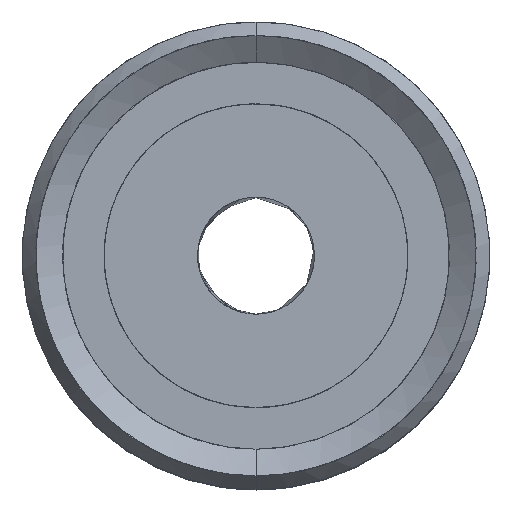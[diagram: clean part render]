
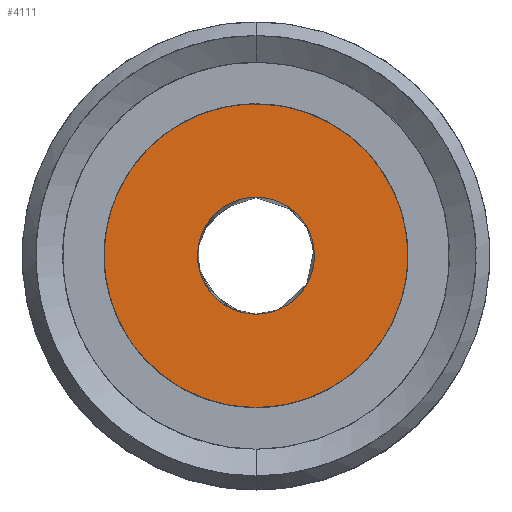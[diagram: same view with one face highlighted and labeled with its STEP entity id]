
A CAD part, top view. The second image highlights one B-rep face of the part: STEP entity #4111.
In plain terms, the highlighted planar face has unit normal (0, 0, 1).
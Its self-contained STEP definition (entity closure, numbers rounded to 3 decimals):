
#22=FACE_BOUND('',#4583,.T.);
#4111=ADVANCED_FACE('',(#4343,#22),#10338,.T.);
#4343=FACE_OUTER_BOUND('',#4582,.T.);
#4582=EDGE_LOOP('',(#4907));
#4583=EDGE_LOOP('',(#4908));
#4907=ORIENTED_EDGE('',*,*,#8319,.T.);
#4908=ORIENTED_EDGE('',*,*,#8320,.T.);
#5760=PCURVE('',#10338,#6613);
#5761=PCURVE('',#10338,#6614);
#6613=DEFINITIONAL_REPRESENTATION('',(#9151),#21980);
#6614=DEFINITIONAL_REPRESENTATION('',(#9153),#21980);
#7466=SURFACE_CURVE('',#9150,(#5760),.PCURVE_S1.);
#7467=SURFACE_CURVE('',#9152,(#5761),.PCURVE_S1.);
#8319=EDGE_CURVE('',#9612,#9612,#7466,.T.);
#8320=EDGE_CURVE('',#9613,#9613,#7467,.T.);
#9150=(
BOUNDED_CURVE()
B_SPLINE_CURVE(2,(#13648,#13649,#13650,#13651,#13652,#13653,#13654,#13655,
#13656),.UNSPECIFIED.,.T.,.F.)
B_SPLINE_CURVE_WITH_KNOTS((3,2,2,2,3),(3.142,4.712,
6.283,7.854,9.425),.UNSPECIFIED.)
CURVE()
GEOMETRIC_REPRESENTATION_ITEM()
RATIONAL_B_SPLINE_CURVE((1.,0.707,1.,0.707,1.,0.707,
1.,0.707,1.))
REPRESENTATION_ITEM('')
);
#9151=(
BOUNDED_CURVE()
B_SPLINE_CURVE(2,(#13657,#13658,#13659,#13660,#13661,#13662,#13663,#13664,
#13665),.UNSPECIFIED.,.T.,.F.)
B_SPLINE_CURVE_WITH_KNOTS((3,2,2,2,3),(3.142,4.712,
6.283,7.854,9.425),.UNSPECIFIED.)
CURVE()
GEOMETRIC_REPRESENTATION_ITEM()
RATIONAL_B_SPLINE_CURVE((1.,0.707,1.,0.707,1.,0.707,
1.,0.707,1.))
REPRESENTATION_ITEM('')
);
#9152=(
BOUNDED_CURVE()
B_SPLINE_CURVE(2,(#13666,#13667,#13668,#13669,#13670,#13671,#13672,#13673,
#13674),.UNSPECIFIED.,.T.,.F.)
B_SPLINE_CURVE_WITH_KNOTS((3,2,2,2,3),(0.,1.571,3.142,
4.712,6.283),.UNSPECIFIED.)
CURVE()
GEOMETRIC_REPRESENTATION_ITEM()
RATIONAL_B_SPLINE_CURVE((1.,0.707,1.,0.707,1.,0.707,
1.,0.707,1.))
REPRESENTATION_ITEM('')
);
#9153=(
BOUNDED_CURVE()
B_SPLINE_CURVE(2,(#13675,#13676,#13677,#13678,#13679,#13680,#13681,#13682,
#13683),.UNSPECIFIED.,.T.,.F.)
B_SPLINE_CURVE_WITH_KNOTS((3,2,2,2,3),(0.,1.571,3.142,
4.712,6.283),.UNSPECIFIED.)
CURVE()
GEOMETRIC_REPRESENTATION_ITEM()
RATIONAL_B_SPLINE_CURVE((1.,0.707,1.,0.707,1.,0.707,
1.,0.707,1.))
REPRESENTATION_ITEM('')
);
#9612=VERTEX_POINT('',#13646);
#9613=VERTEX_POINT('',#13647);
#10338=PLANE('',#10403);
#10403=AXIS2_PLACEMENT_3D('',#13645,#10433,$);
#10433=DIRECTION('',(0.,0.,1.));
#13645=CARTESIAN_POINT('',(-6.5,6.5,15.));
#13646=CARTESIAN_POINT('',(0.,-6.5,15.));
#13647=CARTESIAN_POINT('',(0.,2.5,15.));
#13648=CARTESIAN_POINT('',(0.,-6.5,15.));
#13649=CARTESIAN_POINT('',(6.5,-6.5,15.));
#13650=CARTESIAN_POINT('',(6.5,0.,15.));
#13651=CARTESIAN_POINT('',(6.5,6.5,15.));
#13652=CARTESIAN_POINT('',(0.,6.5,15.));
#13653=CARTESIAN_POINT('',(-6.5,6.5,15.));
#13654=CARTESIAN_POINT('',(-6.5,0.,15.));
#13655=CARTESIAN_POINT('',(-6.5,-6.5,15.));
#13656=CARTESIAN_POINT('',(0.,-6.5,15.));
#13657=CARTESIAN_POINT('',(1.,0.5));
#13658=CARTESIAN_POINT('',(1.,1.));
#13659=CARTESIAN_POINT('',(0.5,1.));
#13660=CARTESIAN_POINT('',(0.,1.));
#13661=CARTESIAN_POINT('',(0.,0.5));
#13662=CARTESIAN_POINT('',(0.,0.));
#13663=CARTESIAN_POINT('',(0.5,0.));
#13664=CARTESIAN_POINT('',(1.,0.));
#13665=CARTESIAN_POINT('',(1.,0.5));
#13666=CARTESIAN_POINT('',(0.,2.5,15.));
#13667=CARTESIAN_POINT('',(2.5,2.5,15.));
#13668=CARTESIAN_POINT('',(2.5,0.,15.));
#13669=CARTESIAN_POINT('',(2.5,-2.5,15.));
#13670=CARTESIAN_POINT('',(0.,-2.5,15.));
#13671=CARTESIAN_POINT('',(-2.5,-2.5,15.));
#13672=CARTESIAN_POINT('',(-2.5,0.,15.));
#13673=CARTESIAN_POINT('',(-2.5,2.5,15.));
#13674=CARTESIAN_POINT('',(0.,2.5,15.));
#13675=CARTESIAN_POINT('',(0.308,0.5));
#13676=CARTESIAN_POINT('',(0.308,0.692));
#13677=CARTESIAN_POINT('',(0.5,0.692));
#13678=CARTESIAN_POINT('',(0.692,0.692));
#13679=CARTESIAN_POINT('',(0.692,0.5));
#13680=CARTESIAN_POINT('',(0.692,0.308));
#13681=CARTESIAN_POINT('',(0.5,0.308));
#13682=CARTESIAN_POINT('',(0.308,0.308));
#13683=CARTESIAN_POINT('',(0.308,0.5));
#21980=(
GEOMETRIC_REPRESENTATION_CONTEXT(2)
PARAMETRIC_REPRESENTATION_CONTEXT()
REPRESENTATION_CONTEXT('pspace','')
);
